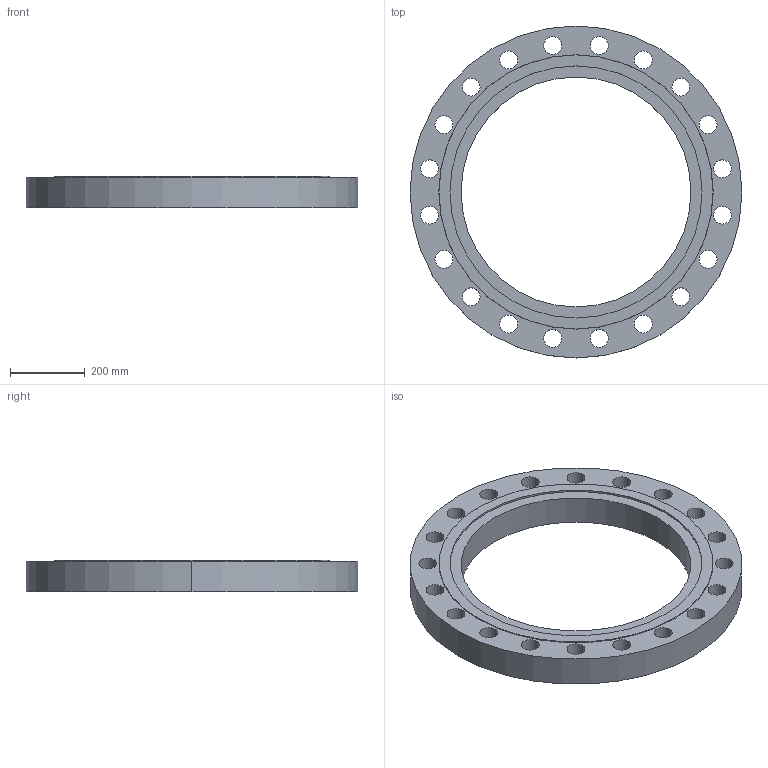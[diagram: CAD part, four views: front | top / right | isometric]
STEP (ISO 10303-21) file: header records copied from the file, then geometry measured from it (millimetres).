
FILE_DESCRIPTION (( 'STEP AP214' ), '1' );
FILE_NAME ('PN40 DN600 Type 01 - Type F Face.STEP', '2018-12-28T23:39:10', ( '' ), ( '' ), 'SwSTEP 2.0', 'SolidWorks 2019', '' );
FILE_SCHEMA (( 'AUTOMOTIVE_DESIGN' ));
Length unit declared in the file: millimetre
Products named in the file (1): PN40 DN600 Type 01 - Type F Face
Bounding box: 890 x 890 x 84 mm (x, y, z)
Volume: 23518386.2 mm3; surface area: 1218911.1 mm2
Topology: 1 solids, 1 shells, 52 faces, 144 edges, 96 vertices
Faces by surface type: cylinder 46, plane 4, cone 2
Entity records: 1842 total; most frequent: DIRECTION 346, CARTESIAN_POINT 293, ORIENTED_EDGE 288, AXIS2_PLACEMENT_3D 149, EDGE_CURVE 144, CIRCLE 96, EDGE_LOOP 96, VERTEX_POINT 96
